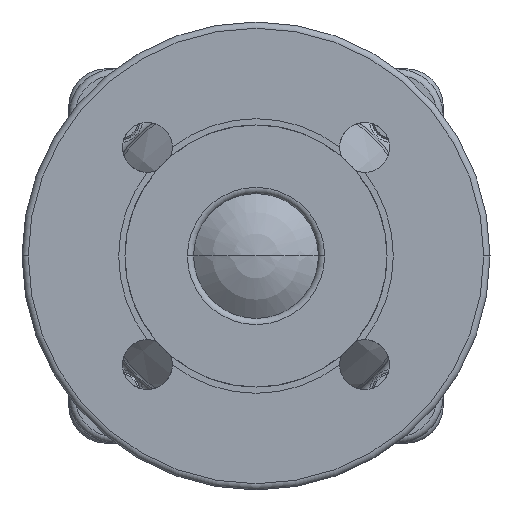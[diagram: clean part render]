
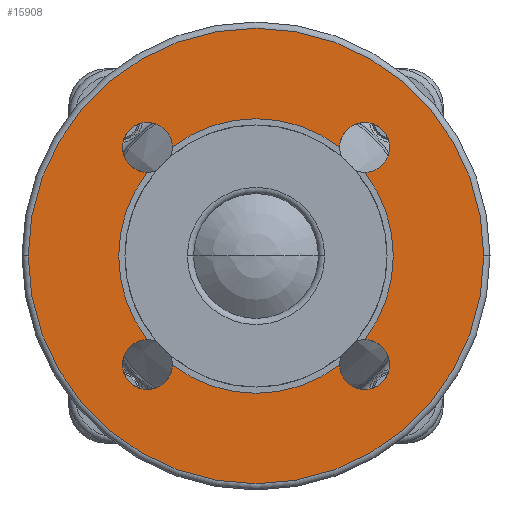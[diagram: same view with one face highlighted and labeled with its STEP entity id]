
A CAD part, left-side view. The second image highlights one B-rep face of the part: STEP entity #15908.
In plain terms, the highlighted planar face has unit normal (-1, 0, 0).
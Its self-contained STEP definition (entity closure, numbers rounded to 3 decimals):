
#2482=CARTESIAN_POINT('',(-161.,0.,0.));
#2483=DIRECTION('',(1.,0.,0.));
#2484=DIRECTION('',(0.,1.,0.));
#2485=AXIS2_PLACEMENT_3D('',#2482,#2483,#2484);
#2487=CARTESIAN_POINT('',(-161.,0.,0.));
#2488=DIRECTION('',(1.,0.,0.));
#2489=DIRECTION('',(0.,-1.,0.));
#2490=AXIS2_PLACEMENT_3D('',#2487,#2488,#2489);
#2492=CARTESIAN_POINT('',(-161.,34.825,-34.825));
#2493=DIRECTION('',(-1.,0.,0.));
#2494=DIRECTION('',(0.,0.007,1.));
#2495=AXIS2_PLACEMENT_3D('',#2492,#2493,#2494);
#2497=CARTESIAN_POINT('',(-161.,34.825,-34.825));
#2498=DIRECTION('',(-1.,0.,0.));
#2499=DIRECTION('',(0.,0.,-1.));
#2500=AXIS2_PLACEMENT_3D('',#2497,#2498,#2499);
#2502=CARTESIAN_POINT('',(-161.,0.,0.));
#2503=DIRECTION('',(-1.,0.,0.));
#2504=DIRECTION('',(0.,0.61,-0.793));
#2505=AXIS2_PLACEMENT_3D('',#2502,#2503,#2504);
#2507=CARTESIAN_POINT('',(-161.,-34.825,-34.825));
#2508=DIRECTION('',(-1.,0.,0.));
#2509=DIRECTION('',(0.,1.,-0.007));
#2510=AXIS2_PLACEMENT_3D('',#2507,#2508,#2509);
#2512=CARTESIAN_POINT('',(-161.,-34.825,-34.825));
#2513=DIRECTION('',(-1.,0.,0.));
#2514=DIRECTION('',(0.,-1.,0.));
#2515=AXIS2_PLACEMENT_3D('',#2512,#2513,#2514);
#2517=CARTESIAN_POINT('',(-161.,0.,0.));
#2518=DIRECTION('',(-1.,0.,0.));
#2519=DIRECTION('',(0.,-0.793,-0.61));
#2520=AXIS2_PLACEMENT_3D('',#2517,#2518,#2519);
#2522=CARTESIAN_POINT('',(-161.,-34.825,34.825));
#2523=DIRECTION('',(-1.,0.,0.));
#2524=DIRECTION('',(0.,-0.007,-1.));
#2525=AXIS2_PLACEMENT_3D('',#2522,#2523,#2524);
#2527=CARTESIAN_POINT('',(-161.,-34.825,34.825));
#2528=DIRECTION('',(-1.,0.,0.));
#2529=DIRECTION('',(0.,0.,1.));
#2530=AXIS2_PLACEMENT_3D('',#2527,#2528,#2529);
#2532=CARTESIAN_POINT('',(-161.,0.,0.));
#2533=DIRECTION('',(-1.,0.,0.));
#2534=DIRECTION('',(0.,-0.61,0.793));
#2535=AXIS2_PLACEMENT_3D('',#2532,#2533,#2534);
#2537=CARTESIAN_POINT('',(-161.,34.825,34.825));
#2538=DIRECTION('',(-1.,0.,0.));
#2539=DIRECTION('',(0.,-1.,0.007));
#2540=AXIS2_PLACEMENT_3D('',#2537,#2538,#2539);
#2542=CARTESIAN_POINT('',(-161.,34.825,34.825));
#2543=DIRECTION('',(-1.,0.,0.));
#2544=DIRECTION('',(0.,1.,0.));
#2545=AXIS2_PLACEMENT_3D('',#2542,#2543,#2544);
#2547=CARTESIAN_POINT('',(-161.,0.,0.));
#2548=DIRECTION('',(-1.,0.,0.));
#2549=DIRECTION('',(0.,0.793,0.61));
#2550=AXIS2_PLACEMENT_3D('',#2547,#2548,#2549);
#2552=CARTESIAN_POINT('',(-161.,0.,0.));
#2553=DIRECTION('',(-1.,0.,0.));
#2554=DIRECTION('',(0.,1.,0.));
#2555=AXIS2_PLACEMENT_3D('',#2552,#2553,#2554);
#11235=CARTESIAN_POINT('',(-161.,73.,0.));
#11236=CARTESIAN_POINT('',(-161.,-73.,0.));
#11237=VERTEX_POINT('',#11235);
#11238=VERTEX_POINT('',#11236);
#11239=CARTESIAN_POINT('',(-161.,34.877,-26.825));
#11240=CARTESIAN_POINT('',(-161.,34.825,-42.825));
#11241=VERTEX_POINT('',#11239);
#11242=VERTEX_POINT('',#11240);
#11243=CARTESIAN_POINT('',(-161.,26.825,-34.877));
#11244=VERTEX_POINT('',#11243);
#11245=CARTESIAN_POINT('',(-161.,-26.825,-34.877));
#11246=CARTESIAN_POINT('',(-161.,-42.825,-34.825));
#11247=VERTEX_POINT('',#11245);
#11248=VERTEX_POINT('',#11246);
#11249=CARTESIAN_POINT('',(-161.,-34.877,-26.825));
#11250=VERTEX_POINT('',#11249);
#11251=CARTESIAN_POINT('',(-161.,-34.877,26.825));
#11252=CARTESIAN_POINT('',(-161.,-34.825,42.825));
#11253=VERTEX_POINT('',#11251);
#11254=VERTEX_POINT('',#11252);
#11255=CARTESIAN_POINT('',(-161.,-26.825,34.877));
#11256=VERTEX_POINT('',#11255);
#11257=CARTESIAN_POINT('',(-161.,26.825,34.877));
#11258=CARTESIAN_POINT('',(-161.,42.825,34.825));
#11259=VERTEX_POINT('',#11257);
#11260=VERTEX_POINT('',#11258);
#11261=CARTESIAN_POINT('',(-161.,34.877,26.825));
#11262=VERTEX_POINT('',#11261);
#11288=CARTESIAN_POINT('',(-161.,44.,0.));
#11289=VERTEX_POINT('',#11288);
#15870=CARTESIAN_POINT('',(-161.,0.,0.));
#15871=DIRECTION('',(1.,0.,0.));
#15872=DIRECTION('',(0.,1.,0.));
#15873=AXIS2_PLACEMENT_3D('',#15870,#15871,#15872);
#15874=PLANE('',#15873);
#15875=ORIENTED_EDGE('',*,*,#15860,.T.);
#15877=ORIENTED_EDGE('',*,*,#15876,.T.);
#15878=EDGE_LOOP('',(#15875,#15877));
#15879=FACE_OUTER_BOUND('',#15878,.F.);
#15881=ORIENTED_EDGE('',*,*,#15880,.T.);
#15883=ORIENTED_EDGE('',*,*,#15882,.T.);
#15885=ORIENTED_EDGE('',*,*,#15884,.T.);
#15887=ORIENTED_EDGE('',*,*,#15886,.T.);
#15889=ORIENTED_EDGE('',*,*,#15888,.T.);
#15891=ORIENTED_EDGE('',*,*,#15890,.T.);
#15893=ORIENTED_EDGE('',*,*,#15892,.T.);
#15895=ORIENTED_EDGE('',*,*,#15894,.T.);
#15897=ORIENTED_EDGE('',*,*,#15896,.T.);
#15899=ORIENTED_EDGE('',*,*,#15898,.T.);
#15901=ORIENTED_EDGE('',*,*,#15900,.T.);
#15903=ORIENTED_EDGE('',*,*,#15902,.T.);
#15905=ORIENTED_EDGE('',*,*,#15904,.T.);
#15906=EDGE_LOOP('',(#15881,#15883,#15885,#15887,#15889,#15891,#15893,#15895,
#15897,#15899,#15901,#15903,#15905));
#15907=FACE_BOUND('',#15906,.F.);
#15908=ADVANCED_FACE('',(#15879,#15907),#15874,.F.);
#2486=CIRCLE('',#2485,73.);
#2491=CIRCLE('',#2490,73.);
#2496=CIRCLE('',#2495,8.);
#2501=CIRCLE('',#2500,8.);
#2506=CIRCLE('',#2505,44.);
#2511=CIRCLE('',#2510,8.);
#2516=CIRCLE('',#2515,8.);
#2521=CIRCLE('',#2520,44.);
#2526=CIRCLE('',#2525,8.);
#2531=CIRCLE('',#2530,8.);
#2536=CIRCLE('',#2535,44.);
#2541=CIRCLE('',#2540,8.);
#2546=CIRCLE('',#2545,8.);
#2551=CIRCLE('',#2550,44.);
#2556=CIRCLE('',#2555,44.);
#15860=EDGE_CURVE('',#11237,#11238,#2486,.T.);
#15876=EDGE_CURVE('',#11238,#11237,#2491,.T.);
#15880=EDGE_CURVE('',#11241,#11242,#2496,.T.);
#15882=EDGE_CURVE('',#11242,#11244,#2501,.T.);
#15884=EDGE_CURVE('',#11244,#11247,#2506,.T.);
#15886=EDGE_CURVE('',#11247,#11248,#2511,.T.);
#15888=EDGE_CURVE('',#11248,#11250,#2516,.T.);
#15890=EDGE_CURVE('',#11250,#11253,#2521,.T.);
#15892=EDGE_CURVE('',#11253,#11254,#2526,.T.);
#15894=EDGE_CURVE('',#11254,#11256,#2531,.T.);
#15896=EDGE_CURVE('',#11256,#11259,#2536,.T.);
#15898=EDGE_CURVE('',#11259,#11260,#2541,.T.);
#15900=EDGE_CURVE('',#11260,#11262,#2546,.T.);
#15902=EDGE_CURVE('',#11262,#11289,#2551,.T.);
#15904=EDGE_CURVE('',#11289,#11241,#2556,.T.);
